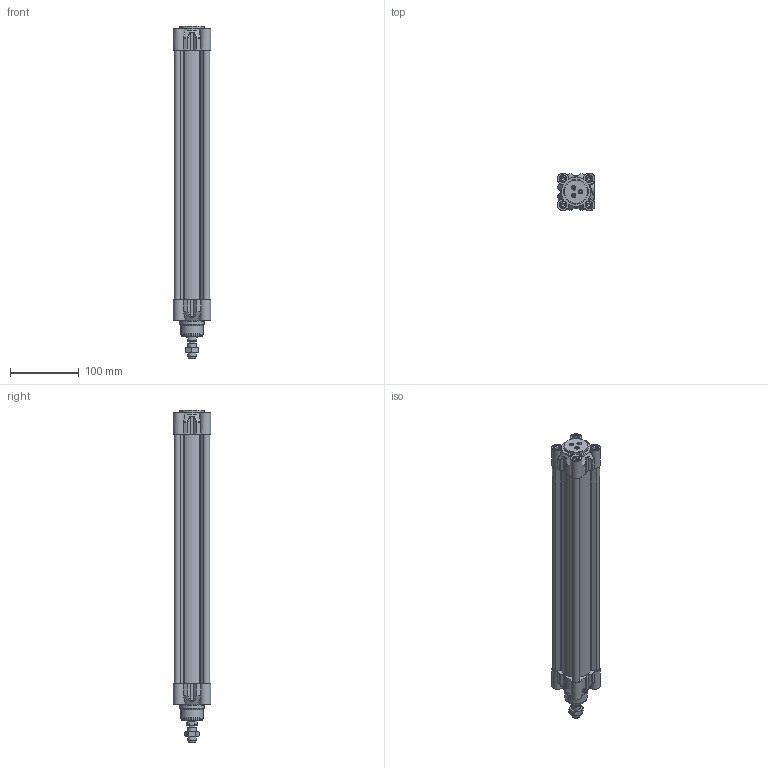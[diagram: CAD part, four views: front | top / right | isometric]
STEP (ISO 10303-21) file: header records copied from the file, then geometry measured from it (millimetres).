
FILE_DESCRIPTION(/* description */ ('Unknown'),/* implementation_level */ '2;1');
FILE_NAME(/* name */ 'HIFO 40_320',/* time_stamp */ '2024-08-14T08:52:54+02:00',/* author */ ('Unknown'),/* organization */ ('Unknown'),/* preprocessor_version */ 'ST-DEVELOPER v16.7',/* originating_system */ 'Solid Edge',/* authorisation */ 'Unknown');
FILE_SCHEMA (('AUTOMOTIVE_DESIGN {1 0 10303 214 3 1 1}'));
Length unit declared in the file: millimetre
Products named in the file (6): HIFO 40_320; Profilrohr 40_320; Mutter; Kolbenstange 40_320; Kit_1; Kit_2
Assembly tree (5 placements, depth 2):
  HIFO 40_320
    Profilrohr 40_320
    Mutter
    Kolbenstange 40_320
    Kit_1
    Kit_2
Bounding box: 54.5 x 54.5 x 483 mm (x, y, z)
Volume: 517226.1 mm3; surface area: 271839.8 mm2
Topology: 5 solids, 12 shells, 963 faces, 2463 edges, 1610 vertices
Faces by surface type: plane 392, cylinder 309, cone 95, torus 76, bspline 73, sphere 18
Full cylindrical faces by diameter (mm): 2.5 x1, 3 x3, 3.5 x3, 4.917 x16, 6 x11, 6.2 x8, 7 x1, 9.9 x2, 10 x13, 10.3 x8, 10.647 x1, 11.44 x1, 11.445 x2, 12 x1, 15.5 x1, 16 x2, 16.6 x1, 16.8 x1, 16.847 x1, 20 x1, 26 x2, 33 x1, 35 x2, 40 x2
Entity records: 37469 total; most frequent: CARTESIAN_POINT 9065, ORIENTED_EDGE 4790, DIRECTION 4576, EDGE_CURVE 2395, AXIS2_PLACEMENT_3D 1737, VERTEX_POINT 1593, FACE_BOUND 1128, EDGE_LOOP 1120
